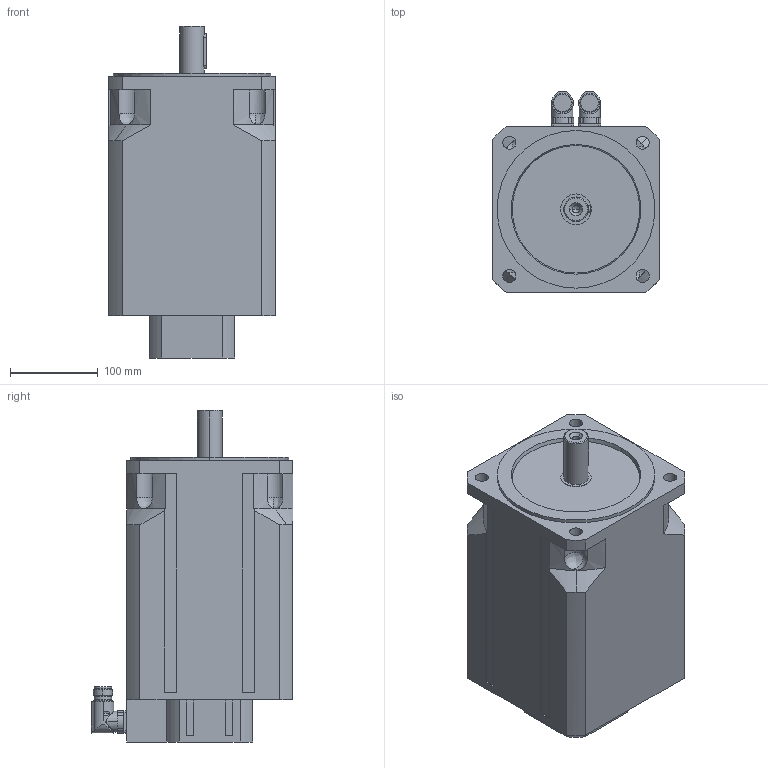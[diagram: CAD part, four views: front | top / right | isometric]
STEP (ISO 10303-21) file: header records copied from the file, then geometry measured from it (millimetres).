
FILE_DESCRIPTION(('STEP AP203'),'2;1');
FILE_NAME('MT7-3200_BX.stp','2006-08-28T20:58:04',(''),(''),'2005.2.102','THINKDESIGN','');
FILE_SCHEMA(('CONFIG_CONTROL_DESIGN'));
Length unit declared in the file: millimetre
Bounding box: 190 x 230.5 x 379 mm (x, y, z)
Volume: 10208684 mm3; surface area: 331732.3 mm2
Topology: 3 solids, 3 shells, 275 faces, 749 edges, 481 vertices
Faces by surface type: cylinder 120, plane 107, bspline 48
Full cylindrical faces by diameter (mm): 20 x2
Entity records: 9842 total; most frequent: CARTESIAN_POINT 2891, ORIENTED_EDGE 1478, DIRECTION 1427, EDGE_CURVE 739, AXIS2_PLACEMENT_3D 539, VERTEX_POINT 481, VECTOR 349, LINE 349
